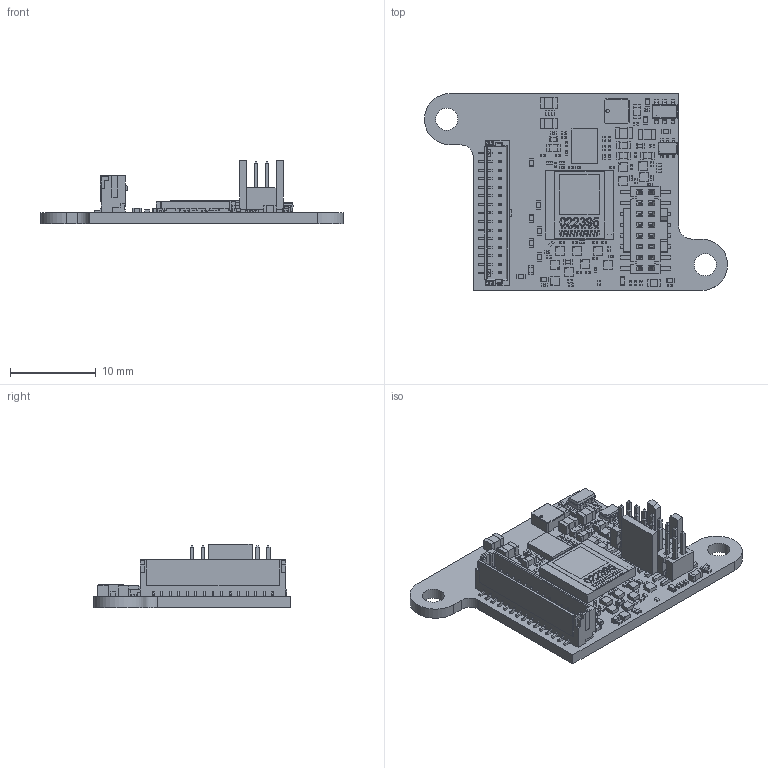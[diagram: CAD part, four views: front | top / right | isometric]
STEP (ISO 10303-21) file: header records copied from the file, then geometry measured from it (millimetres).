
FILE_DESCRIPTION(/* description */ ('VX1543C Serial POD'),/* implementation_level */ '2;1');
FILE_NAME(/* name */ 'C:\Users\TeamCenterSystem\Documents\Inventor\GRP_001386_CUST_iam.STP',/* time_stamp */ '2024-11-22T13:51:55+01:00',/* author */ ('vista'),/* organization */ (''),/* preprocessor_version */ 'ST-DEVELOPER v18.1',/* originating_system */ 'Autodesk Inventor 2022',/* authorisation */ '');
FILE_SCHEMA (('AUTOMOTIVE_DESIGN { 1 0 10303 214 3 1 1 }'));
Products named in the file (4): GRP_001386_CUST; GRP_001386; ASY_001473; LBL_001391
Assembly tree (3 placements, depth 3):
  GRP_001386_CUST
    GRP_001386
      ASY_001473
      LBL_001391
Bounding box: 35.4 x 23 x 7.41 mm (x, y, z)
Volume: 1156.4 mm3; surface area: 3066.4 mm2
Topology: 143 solids, 143 shells, 5773 faces, 14568 edges, 9376 vertices
Faces by surface type: plane 5170, cylinder 539, bspline 64
Full cylindrical faces by diameter (mm): 0.125 x12, 0.25 x2, 0.3 x132, 0.4 x1, 0.5 x1, 2.1 x1, 2.6 x2
Entity records: 172735 total; most frequent: CARTESIAN_POINT 30768, ORIENTED_EDGE 29136, DIRECTION 26984, EDGE_CURVE 14568, LINE 13200, VECTOR 13200, VERTEX_POINT 9376, AXIS2_PLACEMENT_3D 6892
